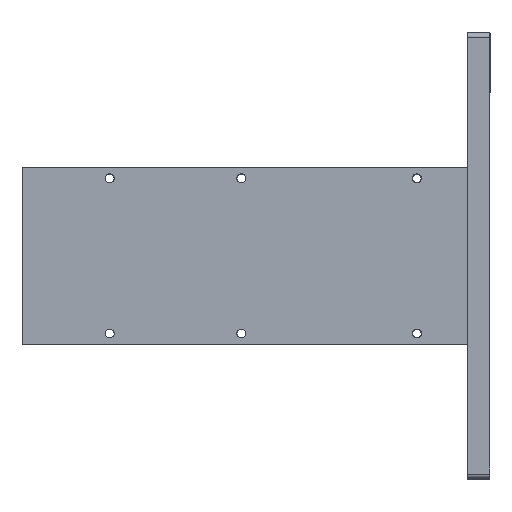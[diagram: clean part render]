
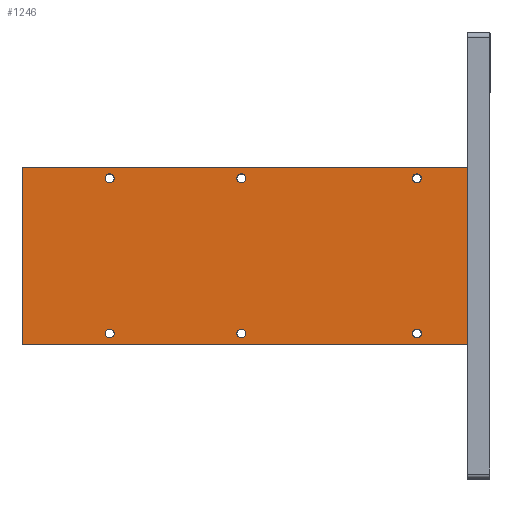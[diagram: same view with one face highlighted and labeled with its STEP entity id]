
A CAD part, top view. The second image highlights one B-rep face of the part: STEP entity #1246.
In plain terms, the highlighted planar face has unit normal (0, 0, 1) as drawn and (0, 1, 0) by its records, which use the part's own axes.
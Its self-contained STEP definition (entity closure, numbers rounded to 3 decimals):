
#8 = EDGE_CURVE ( 'NONE', #4527, #2811, #249, .T. ) ;
#31 = DIRECTION ( 'NONE',  ( 0., 0., 1. ) ) ;
#115 = ORIENTED_EDGE ( 'NONE', *, *, #6094, .F. ) ;
#120 = VERTEX_POINT ( 'NONE', #7198 ) ;
#137 = CARTESIAN_POINT ( 'NONE',  ( -98., 12.7, -44.225 ) ) ;
#181 = CARTESIAN_POINT ( 'NONE',  ( 127., 12.7, -50.575 ) ) ;
#207 = VERTEX_POINT ( 'NONE', #1075 ) ;
#212 = PLANE ( 'NONE',  #738 ) ;
#213 = DIRECTION ( 'NONE',  ( 0., 0., 1. ) ) ;
#249 = LINE ( 'NONE', #181, #4279 ) ;
#270 = VERTEX_POINT ( 'NONE', #2138 ) ;
#362 = EDGE_CURVE ( 'NONE', #120, #1479, #5439, .T. ) ;
#434 = VECTOR ( 'NONE', #4122, 1000. ) ;
#455 = CARTESIAN_POINT ( 'NONE',  ( -127., 12.7, -50.575 ) ) ;
#494 = CIRCLE ( 'NONE', #6445, 2.54 ) ;
#635 = ORIENTED_EDGE ( 'NONE', *, *, #1505, .F. ) ;
#671 = CARTESIAN_POINT ( 'NONE',  ( 2., 12.7, 44.225 ) ) ;
#690 = DIRECTION ( 'NONE',  ( 0., 1., 0. ) ) ;
#738 = AXIS2_PLACEMENT_3D ( 'NONE', #2950, #2452, #6358 ) ;
#869 = DIRECTION ( 'NONE',  ( 0., 1., 0. ) ) ;
#1042 = CIRCLE ( 'NONE', #2933, 2.54 ) ;
#1075 = CARTESIAN_POINT ( 'NONE',  ( 2., 12.7, -41.685 ) ) ;
#1126 = FACE_BOUND ( 'NONE', #5631, .T. ) ;
#1160 = EDGE_CURVE ( 'NONE', #6940, #4731, #494, .T. ) ;
#1161 = DIRECTION ( 'NONE',  ( 0., 0., 1. ) ) ;
#1244 = CARTESIAN_POINT ( 'NONE',  ( -127., 12.7, -50.575 ) ) ;
#1246 = ADVANCED_FACE ( 'NONE', ( #1834, #1636, #3329, #1126, #6698, #4562, #6856 ), #212, .T. ) ;
#1249 = CARTESIAN_POINT ( 'NONE',  ( -98., 12.7, 44.225 ) ) ;
#1267 = EDGE_CURVE ( 'NONE', #4731, #6940, #1777, .T. ) ;
#1296 = AXIS2_PLACEMENT_3D ( 'NONE', #1402, #869, #5314 ) ;
#1314 = AXIS2_PLACEMENT_3D ( 'NONE', #137, #6361, #4332 ) ;
#1374 = ORIENTED_EDGE ( 'NONE', *, *, #4112, .T. ) ;
#1384 = EDGE_CURVE ( 'NONE', #6399, #207, #5975, .T. ) ;
#1392 = EDGE_CURVE ( 'NONE', #2870, #4404, #6330, .T. ) ;
#1402 = CARTESIAN_POINT ( 'NONE',  ( 77., 12.7, -44.225 ) ) ;
#1443 = EDGE_CURVE ( 'NONE', #3163, #4074, #2034, .T. ) ;
#1479 = VERTEX_POINT ( 'NONE', #3557 ) ;
#1497 = AXIS2_PLACEMENT_3D ( 'NONE', #7096, #2575, #7029 ) ;
#1505 = EDGE_CURVE ( 'NONE', #4404, #2870, #6973, .T. ) ;
#1571 = CARTESIAN_POINT ( 'NONE',  ( -98., 12.7, -44.225 ) ) ;
#1585 = DIRECTION ( 'NONE',  ( 0., 0., 1. ) ) ;
#1636 = FACE_BOUND ( 'NONE', #2202, .T. ) ;
#1647 = DIRECTION ( 'NONE',  ( 0., 1., 0. ) ) ;
#1703 = CARTESIAN_POINT ( 'NONE',  ( 77., 12.7, -44.225 ) ) ;
#1718 = ORIENTED_EDGE ( 'NONE', *, *, #1392, .F. ) ;
#1777 = CIRCLE ( 'NONE', #1314, 2.54 ) ;
#1834 = FACE_BOUND ( 'NONE', #2935, .T. ) ;
#1979 = CARTESIAN_POINT ( 'NONE',  ( 2., 12.7, 46.765 ) ) ;
#2034 = CIRCLE ( 'NONE', #2540, 2.54 ) ;
#2138 = CARTESIAN_POINT ( 'NONE',  ( 77., 12.7, -46.765 ) ) ;
#2168 = DIRECTION ( 'NONE',  ( 0., 0., 1. ) ) ;
#2202 = EDGE_LOOP ( 'NONE', ( #4176, #2558 ) ) ;
#2259 = AXIS2_PLACEMENT_3D ( 'NONE', #3245, #5447, #6785 ) ;
#2309 = CARTESIAN_POINT ( 'NONE',  ( -127., 12.7, 50.575 ) ) ;
#2363 = CIRCLE ( 'NONE', #1296, 2.54 ) ;
#2452 = DIRECTION ( 'NONE',  ( 0., 1., 0. ) ) ;
#2540 = AXIS2_PLACEMENT_3D ( 'NONE', #671, #2916, #2885 ) ;
#2558 = ORIENTED_EDGE ( 'NONE', *, *, #2752, .F. ) ;
#2575 = DIRECTION ( 'NONE',  ( 0., 1., 0. ) ) ;
#2679 = CIRCLE ( 'NONE', #1497, 2.54 ) ;
#2752 = EDGE_CURVE ( 'NONE', #270, #4580, #2363, .T. ) ;
#2811 = VERTEX_POINT ( 'NONE', #7197 ) ;
#2832 = VECTOR ( 'NONE', #4452, 1000. ) ;
#2870 = VERTEX_POINT ( 'NONE', #4463 ) ;
#2885 = DIRECTION ( 'NONE',  ( 0., 0., 1. ) ) ;
#2916 = DIRECTION ( 'NONE',  ( 0., 1., 0. ) ) ;
#2933 = AXIS2_PLACEMENT_3D ( 'NONE', #1703, #690, #1161 ) ;
#2935 = EDGE_LOOP ( 'NONE', ( #6213, #6692 ) ) ;
#2950 = CARTESIAN_POINT ( 'NONE',  ( 0., 12.7, 0. ) ) ;
#3047 = ORIENTED_EDGE ( 'NONE', *, *, #1267, .F. ) ;
#3163 = VERTEX_POINT ( 'NONE', #5233 ) ;
#3171 = EDGE_CURVE ( 'NONE', #2811, #6410, #3409, .T. ) ;
#3196 = AXIS2_PLACEMENT_3D ( 'NONE', #6710, #4029, #3468 ) ;
#3245 = CARTESIAN_POINT ( 'NONE',  ( 2., 12.7, -44.225 ) ) ;
#3303 = LINE ( 'NONE', #2309, #2832 ) ;
#3329 = FACE_BOUND ( 'NONE', #4312, .T. ) ;
#3363 = EDGE_CURVE ( 'NONE', #1479, #120, #2679, .T. ) ;
#3409 = LINE ( 'NONE', #1244, #434 ) ;
#3451 = DIRECTION ( 'NONE',  ( 0., 1., 0. ) ) ;
#3468 = DIRECTION ( 'NONE',  ( 0., 0., 1. ) ) ;
#3494 = ORIENTED_EDGE ( 'NONE', *, *, #8, .T. ) ;
#3557 = CARTESIAN_POINT ( 'NONE',  ( -98., 12.7, 41.685 ) ) ;
#3598 = EDGE_CURVE ( 'NONE', #4580, #270, #1042, .T. ) ;
#3840 = DIRECTION ( 'NONE',  ( 0., 0., 1. ) ) ;
#3922 = CARTESIAN_POINT ( 'NONE',  ( -127., 12.7, -50.575 ) ) ;
#3931 = EDGE_LOOP ( 'NONE', ( #5024, #1374, #3494, #6719 ) ) ;
#3993 = CARTESIAN_POINT ( 'NONE',  ( -127., 12.7, 50.575 ) ) ;
#4029 = DIRECTION ( 'NONE',  ( 0., 1., 0. ) ) ;
#4074 = VERTEX_POINT ( 'NONE', #1979 ) ;
#4112 = EDGE_CURVE ( 'NONE', #5795, #4527, #3303, .T. ) ;
#4122 = DIRECTION ( 'NONE',  ( -1., 0., 0. ) ) ;
#4176 = ORIENTED_EDGE ( 'NONE', *, *, #3598, .F. ) ;
#4279 = VECTOR ( 'NONE', #6930, 1000. ) ;
#4312 = EDGE_LOOP ( 'NONE', ( #635, #1718 ) ) ;
#4313 = ORIENTED_EDGE ( 'NONE', *, *, #362, .F. ) ;
#4315 = EDGE_CURVE ( 'NONE', #207, #6399, #4348, .T. ) ;
#4332 = DIRECTION ( 'NONE',  ( 0., 0., 1. ) ) ;
#4348 = CIRCLE ( 'NONE', #7033, 2.54 ) ;
#4363 = VECTOR ( 'NONE', #3840, 1000. ) ;
#4404 = VERTEX_POINT ( 'NONE', #5989 ) ;
#4445 = AXIS2_PLACEMENT_3D ( 'NONE', #6001, #4829, #1585 ) ;
#4452 = DIRECTION ( 'NONE',  ( 1., 0., 0. ) ) ;
#4461 = CARTESIAN_POINT ( 'NONE',  ( 2., 12.7, -46.765 ) ) ;
#4463 = CARTESIAN_POINT ( 'NONE',  ( 77., 12.7, 41.685 ) ) ;
#4527 = VERTEX_POINT ( 'NONE', #6609 ) ;
#4562 = FACE_BOUND ( 'NONE', #5256, .T. ) ;
#4580 = VERTEX_POINT ( 'NONE', #4588 ) ;
#4588 = CARTESIAN_POINT ( 'NONE',  ( 77., 12.7, -41.685 ) ) ;
#4649 = AXIS2_PLACEMENT_3D ( 'NONE', #7088, #6567, #5870 ) ;
#4731 = VERTEX_POINT ( 'NONE', #6524 ) ;
#4829 = DIRECTION ( 'NONE',  ( 0., 1., 0. ) ) ;
#4890 = EDGE_CURVE ( 'NONE', #6410, #5795, #6600, .T. ) ;
#5024 = ORIENTED_EDGE ( 'NONE', *, *, #4890, .T. ) ;
#5112 = ORIENTED_EDGE ( 'NONE', *, *, #1160, .F. ) ;
#5115 = CARTESIAN_POINT ( 'NONE',  ( -98., 12.7, -46.765 ) ) ;
#5233 = CARTESIAN_POINT ( 'NONE',  ( 2., 12.7, 41.685 ) ) ;
#5244 = CIRCLE ( 'NONE', #4445, 2.54 ) ;
#5256 = EDGE_LOOP ( 'NONE', ( #3047, #5112 ) ) ;
#5314 = DIRECTION ( 'NONE',  ( 0., 0., 1. ) ) ;
#5439 = CIRCLE ( 'NONE', #6381, 2.54 ) ;
#5447 = DIRECTION ( 'NONE',  ( 0., 1., 0. ) ) ;
#5631 = EDGE_LOOP ( 'NONE', ( #115, #6513 ) ) ;
#5795 = VERTEX_POINT ( 'NONE', #3993 ) ;
#5870 = DIRECTION ( 'NONE',  ( 0., 0., 1. ) ) ;
#5975 = CIRCLE ( 'NONE', #2259, 2.54 ) ;
#5989 = CARTESIAN_POINT ( 'NONE',  ( 77., 12.7, 46.765 ) ) ;
#6001 = CARTESIAN_POINT ( 'NONE',  ( 2., 12.7, 44.225 ) ) ;
#6018 = DIRECTION ( 'NONE',  ( 0., 1., 0. ) ) ;
#6094 = EDGE_CURVE ( 'NONE', #4074, #3163, #5244, .T. ) ;
#6213 = ORIENTED_EDGE ( 'NONE', *, *, #4315, .F. ) ;
#6330 = CIRCLE ( 'NONE', #3196, 2.54 ) ;
#6358 = DIRECTION ( 'NONE',  ( 0., 0., 1. ) ) ;
#6361 = DIRECTION ( 'NONE',  ( 0., 1., 0. ) ) ;
#6381 = AXIS2_PLACEMENT_3D ( 'NONE', #1249, #1647, #31 ) ;
#6399 = VERTEX_POINT ( 'NONE', #4461 ) ;
#6410 = VERTEX_POINT ( 'NONE', #3922 ) ;
#6445 = AXIS2_PLACEMENT_3D ( 'NONE', #1571, #6018, #2168 ) ;
#6513 = ORIENTED_EDGE ( 'NONE', *, *, #1443, .F. ) ;
#6524 = CARTESIAN_POINT ( 'NONE',  ( -98., 12.7, -41.685 ) ) ;
#6567 = DIRECTION ( 'NONE',  ( 0., 1., 0. ) ) ;
#6600 = LINE ( 'NONE', #455, #4363 ) ;
#6609 = CARTESIAN_POINT ( 'NONE',  ( 127., 12.7, 50.575 ) ) ;
#6692 = ORIENTED_EDGE ( 'NONE', *, *, #1384, .F. ) ;
#6698 = FACE_BOUND ( 'NONE', #6828, .T. ) ;
#6710 = CARTESIAN_POINT ( 'NONE',  ( 77., 12.7, 44.225 ) ) ;
#6719 = ORIENTED_EDGE ( 'NONE', *, *, #3171, .T. ) ;
#6766 = CARTESIAN_POINT ( 'NONE',  ( 2., 12.7, -44.225 ) ) ;
#6785 = DIRECTION ( 'NONE',  ( 0., 0., 1. ) ) ;
#6798 = ORIENTED_EDGE ( 'NONE', *, *, #3363, .F. ) ;
#6828 = EDGE_LOOP ( 'NONE', ( #4313, #6798 ) ) ;
#6856 = FACE_OUTER_BOUND ( 'NONE', #3931, .T. ) ;
#6930 = DIRECTION ( 'NONE',  ( 0., 0., -1. ) ) ;
#6940 = VERTEX_POINT ( 'NONE', #5115 ) ;
#6973 = CIRCLE ( 'NONE', #4649, 2.54 ) ;
#7029 = DIRECTION ( 'NONE',  ( 0., 0., 1. ) ) ;
#7033 = AXIS2_PLACEMENT_3D ( 'NONE', #6766, #3451, #213 ) ;
#7088 = CARTESIAN_POINT ( 'NONE',  ( 77., 12.7, 44.225 ) ) ;
#7096 = CARTESIAN_POINT ( 'NONE',  ( -98., 12.7, 44.225 ) ) ;
#7197 = CARTESIAN_POINT ( 'NONE',  ( 127., 12.7, -50.575 ) ) ;
#7198 = CARTESIAN_POINT ( 'NONE',  ( -98., 12.7, 46.765 ) ) ;
